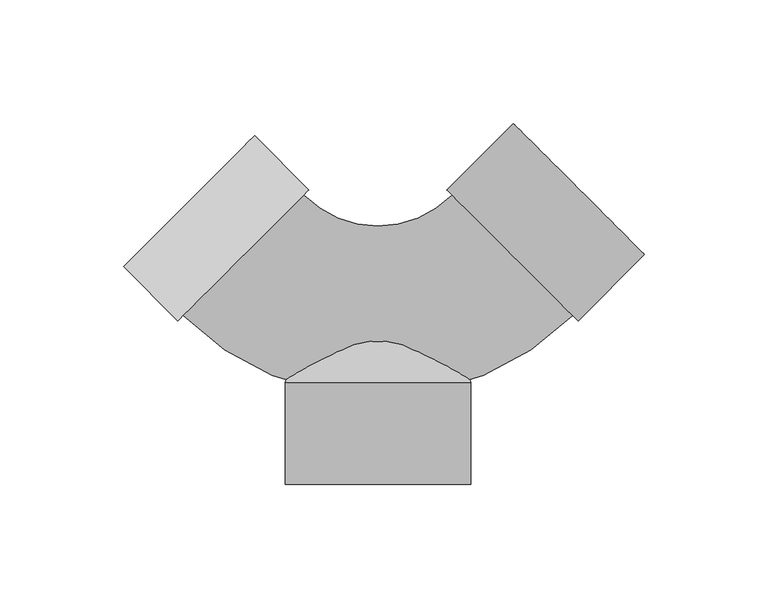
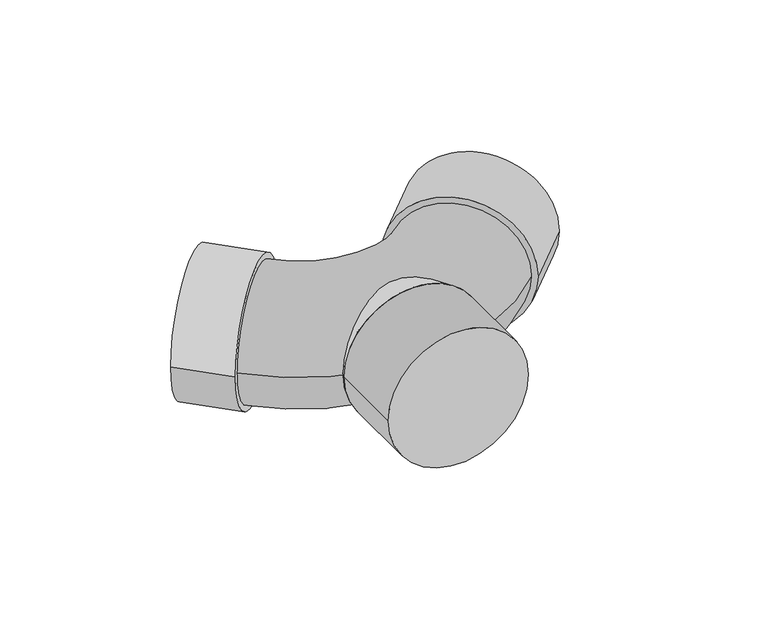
"""IFC4 building model written with IfcOpenShell, lengths in millimetres: pipe fitting geometry, 01051346 : Y Courbe."""

from ifc_helpers import new_model, si_unit, point, frame, origin, origin_2d, place, context, project, spatial, polyline, circle_curve, ellipse_curve, trimmed, segment, composite_curve, outline, extrude, source, transform, mapped, element, save
from ifc_brep_helpers import plane_surface, revolved_surface, advanced_brep


def pipe_fitting_b92c95c5(model_context):
    return source(origin(), model_context, "Body", "SolidModel", [
        advanced_brep(
        [(31.5, 20.0, 0.0), (-31.5, 20.0, 0.0), (0.0, 20.0, 0.0), (37.5, 3.0, 0.0), (-37.5, 3.0, 0.0), (0.0, 3.0, 0.0)],
        [
            (0, 1, circle_curve(frame((0.0, 20.0, 0.0), z_axis=(0.0, 1.0, 0.0), x_axis=(-1.0, 0.0, 0.0)), 31.5)),
            (1, 2),
            (2, 0),
            (1, 0, circle_curve(frame((0.0, 20.0, 0.0), z_axis=(0.0, 1.0, 0.0), x_axis=(-1.0, 0.0, 0.0)), 31.5)),
            (3, 4, circle_curve(frame((0.0, 3.0, 0.0), z_axis=(0.0, 1.0, 0.0), x_axis=(-1.0, 0.0, 0.0)), 37.5)),
            (4, 1),
            (0, 3),
            (4, 3, circle_curve(frame((0.0, 3.0, 0.0), z_axis=(0.0, 1.0, 0.0), x_axis=(-1.0, 0.0, 0.0)), 37.5)),
            (5, 4),
            (3, 5),
        ],
        [
            plane_surface(frame((0.0, 20.0, 0.0), z_axis=(0.0, 1.0, 0.0), x_axis=(-1.0, 0.0, 0.0))),
            revolved_surface(polyline([(-31.5, 20.0, 0.0), (-37.5, 3.0, 0.0)]), (0.0, 1305.9543131, 0.0), (0.0, -1.0, 0.0)),
            plane_surface(frame((0.0, 3.0, 0.0), z_axis=(0.0, -1.0, 0.0), x_axis=(-1.0, 0.0, 0.0))),
        ],
        [
            (0, [[1, 2, 3]]),
            (0, [[4, -3, -2]]),
            (1, [[5, 6, -1, 7]]),
            (1, [[8, -7, -4, -6]]),
            (2, [[9, -5, 10]]),
            (2, [[-10, -8, -9]]),
        ],
    ),
        extrude(outline(composite_curve([segment(trimmed(circle_curve(origin_2d(), 37.5), [point((0.0, 37.4999999))], [point((0.0, -37.4999999))], False, "CARTESIAN"), True, "CONTINUOUS"), segment(trimmed(circle_curve(origin_2d(), 37.5), [point((0.0, -37.4999999))], [point((0.0, 37.4999999))], False, "CARTESIAN"), True, "CONTINUOUS")], self_intersect=False)), frame((54.4472222, 54.4472222, 0.0), z_axis=(0.707106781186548, 0.707106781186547, 0.0), x_axis=(0.0, 0.0, 1.0)), (0.0, 0.0, 1.0), 38.0),
        extrude(outline(composite_curve([segment(trimmed(circle_curve(origin_2d(), 37.5), [point((0.0, 37.4999999))], [point((0.0, -37.4999999))], False, "CARTESIAN"), True, "CONTINUOUS"), segment(trimmed(circle_curve(origin_2d(), 37.5), [point((0.0, -37.4999999))], [point((0.0, 37.4999999))], False, "CARTESIAN"), True, "CONTINUOUS")], self_intersect=False)), frame((-54.4472222, 54.4472222, 0.0), z_axis=(-0.7071067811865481, 0.707106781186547, 0.0), x_axis=(0.0, 0.0, 1.0)), (0.0, 0.0, 1.0), 31.0),
        advanced_brep(
        [(-78.8424061, 30.0520382, 0.0), (-30.0520382, 78.8424061, 0.0), (78.8424061, 30.0520382, 0.0), (30.0520382, 78.8424061, 0.0)],
        [
            (0, 1, circle_curve(frame((-54.4472222, 54.4472222, 0.0), z_axis=(-0.7071067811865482, 0.7071067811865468, 0.0), x_axis=(0.7071067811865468, 0.7071067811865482, 0.0)), 34.5)),
            (1, 0, circle_curve(frame((-54.4472222, 54.4472222, 0.0), z_axis=(-0.7071067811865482, 0.7071067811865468, 0.0), x_axis=(0.7071067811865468, 0.7071067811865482, 0.0)), 34.5)),
            (2, 3, circle_curve(frame((54.4472222, 54.4472222, 0.0), z_axis=(0.7071067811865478, 0.7071067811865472, 0.0), x_axis=(-0.7071067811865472, 0.7071067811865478, 0.0)), 34.5)),
            (3, 2, circle_curve(frame((54.4472222, 54.4472222, 0.0), z_axis=(0.7071067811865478, 0.7071067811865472, 0.0), x_axis=(-0.7071067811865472, 0.7071067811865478, 0.0)), 34.5)),
            (3, 1, circle_curve(frame((0.0, 108.8944443, 0.0), z_axis=(0.0, 0.0, -1.0), x_axis=(-0.7071067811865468, -0.7071067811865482, 0.0)), 42.5)),
            (0, 2, circle_curve(frame((0.0, 108.8944443, 0.0), z_axis=(0.0, 0.0, 1.0), x_axis=(-0.7071067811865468, -0.7071067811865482, 0.0)), 111.5)),
        ],
        [
            plane_surface(frame((-54.4472222, 54.4472222, 0.0), z_axis=(-0.7071067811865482, 0.7071067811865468, 0.0), x_axis=(0.0, 0.0, 1.0))),
            plane_surface(frame((54.4472222, 54.4472222, 0.0), z_axis=(0.7071067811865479, 0.7071067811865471, 0.0), x_axis=(0.0, 0.0, 1.0))),
            revolved_surface(trimmed(ellipse_curve(frame((-54.4472222, 54.4472222, 0.0), z_axis=(-0.7071067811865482, 0.7071067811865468, 0.0), x_axis=(0.7071067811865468, 0.7071067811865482, 0.0)), 34.5, 34.5), [point((-78.8424061, 30.0520382, 0.0))], [point((-30.0520382, 78.8424061, 0.0))], True, "CARTESIAN"), (0.0, 108.8944443, 0.0), (0.0, 0.0, 1.0)),
            revolved_surface(trimmed(ellipse_curve(frame((-54.4472222, 54.4472222, 0.0), z_axis=(-0.7071067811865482, 0.7071067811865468, 0.0), x_axis=(0.7071067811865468, 0.7071067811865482, 0.0)), 34.5, 34.5), [point((-30.0520382, 78.8424061, 0.0))], [point((-78.8424061, 30.0520382, 0.0))], True, "CARTESIAN"), (0.0, 108.8944443, 0.0), (0.0, 0.0, 1.0)),
        ],
        [
            (0, [[1, 2]]),
            (1, [[3, 4]]),
            (2, [[5, -1, 6, -4]]),
            (3, [[-6, -2, -5, -3]]),
        ],
    ),
        extrude(outline(composite_curve([segment(trimmed(circle_curve(origin_2d(), 37.5), [point((0.0, -37.5))], [point((0.0, 37.5))], False, "CARTESIAN"), True, "CONTINUOUS"), segment(trimmed(circle_curve(origin_2d(), 37.5), [point((0.0, 37.5))], [point((0.0, -37.5))], False, "CARTESIAN"), True, "CONTINUOUS")], self_intersect=False)), frame((0.0, -38.3333333, 0.0), z_axis=(0.0, 1.0, 0.0), x_axis=(0.0, 0.0, 1.0)), (0.0, 0.0, 1.0), 41.3333333),
    ])


if __name__ == "__main__":
    model = new_model("IFC4")
    model_context = context("Model", 3, world=origin())
    ifc_project = project(units=[si_unit("LENGTHUNIT", "METRE", prefix="MILLI")], contexts=[model_context])
    site = spatial("IfcSite", under=ifc_project)
    building = spatial("IfcBuilding", under=site)
    placement = place(None, origin())
    pipe_fitting_shape = pipe_fitting_b92c95c5(model_context)
    element("IfcPipeFitting", 1, ObjectType="01051346 : Y Courbe", at=placement, inside=building, context=model_context, shape_type="MappedRepresentation", body=[
        mapped(pipe_fitting_shape, transform((0.0, 0.0, 0.0), x_axis=(1.0, 0.0, 0.0), y_axis=(0.0, 1.0, 0.0), z_axis=(0.0, 0.0, 1.0))),
    ])
    save(model, "model.ifc")
